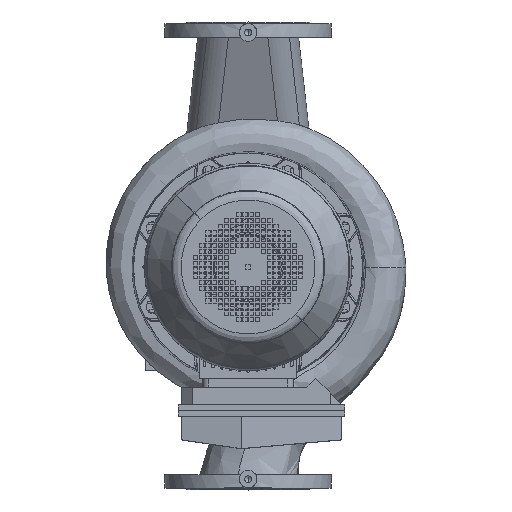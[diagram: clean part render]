
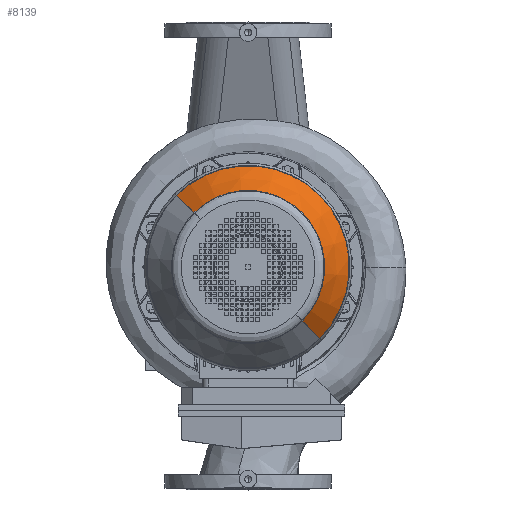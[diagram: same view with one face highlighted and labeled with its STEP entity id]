
A CAD part, top view. The second image highlights one B-rep face of the part: STEP entity #8139.
In plain terms, the highlighted conical face has half-angle 34.992 degrees and reference radius 125 mm.
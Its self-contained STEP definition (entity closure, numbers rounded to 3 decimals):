
#8139=ADVANCED_FACE('',(#20381),#20382,.T.);
#9835=EDGE_CURVE('',#23344,#23345,#23346,.T.);
#9837=EDGE_CURVE('',#23348,#23349,#23350,.T.);
#20381=FACE_OUTER_BOUND('',#36900,.T.);
#20382=CONICAL_SURFACE('',#36901,125.0,0.611);
#23344=VERTEX_POINT('',#39868);
#23345=VERTEX_POINT('',#39869);
#23346=CIRCLE('',#39870,173.885);
#23348=VERTEX_POINT('',#39873);
#23349=VERTEX_POINT('',#39874);
#23350=CIRCLE('',#39875,130.972);
#36900=EDGE_LOOP('',(#67072,#67073,#67074,#67075));
#36901=AXIS2_PLACEMENT_3D('',#67076,#67077,#67078);
#39868=CARTESIAN_POINT('',(173.885,0.,130.165));
#39869=CARTESIAN_POINT('',(-173.885,0.,130.165));
#39870=AXIS2_PLACEMENT_3D('',#75527,#75528,#75529);
#39873=CARTESIAN_POINT('',(-130.972,0.,191.469));
#39874=CARTESIAN_POINT('',(130.972,0.0,191.469));
#39875=AXIS2_PLACEMENT_3D('',#75530,#75531,#75532);
#67072=ORIENTED_EDGE('',*,*,#86599,.F.);
#67073=ORIENTED_EDGE('',*,*,#9835,.F.);
#67074=ORIENTED_EDGE('',*,*,#86600,.F.);
#67075=ORIENTED_EDGE('',*,*,#9837,.F.);
#67076=CARTESIAN_POINT('',(0.0,0.0,200.0));
#67077=DIRECTION('',(-0.0,-0.0,-1.0));
#67078=DIRECTION('',(-1.0,0.0,0.0));
#75527=CARTESIAN_POINT('',(0.0,0.0,130.165));
#75528=DIRECTION('',(0.0,0.0,-1.0));
#75529=DIRECTION('',(1.0,0.,0.0));
#75530=CARTESIAN_POINT('',(0.0,0.0,191.469));
#75531=DIRECTION('',(0.0,0.0,1.0));
#75532=DIRECTION('',(1.0,0.0,0.0));
#86599=EDGE_CURVE('',#23345,#23348,#93731,.T.);
#86600=EDGE_CURVE('',#23349,#23344,#93732,.T.);
#93731=LINE('',#102656,#102657);
#93732=LINE('',#102658,#102659);
#102656=CARTESIAN_POINT('',(-125.0,0.,200.0));
#102657=VECTOR('',#113280,1.0);
#102658=CARTESIAN_POINT('',(125.0,0.,200.0));
#102659=VECTOR('',#113281,1.0);
#113280=DIRECTION('',(0.573,0.,0.819));
#113281=DIRECTION('',(0.573,0.,-0.819));
